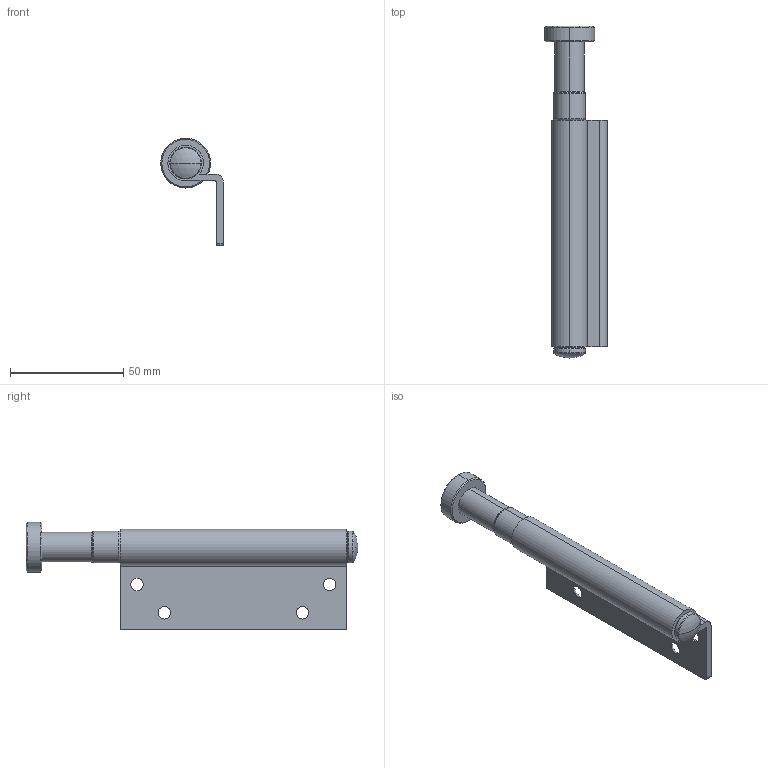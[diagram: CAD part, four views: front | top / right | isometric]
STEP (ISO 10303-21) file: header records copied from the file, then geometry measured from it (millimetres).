
FILE_DESCRIPTION (( 'STEP AP214' ), '1' );
FILE_NAME ('F3 Straight guide - Right 05Jul2024.STEP', '2024-07-05T00:16:43', ( '' ), ( '' ), 'SwSTEP 2.0', 'SolidWorks 2023', '' );
FILE_SCHEMA (( 'AUTOMOTIVE_DESIGN' ));
Length unit declared in the file: millimetre
Products named in the file (3): Straight guide body; Offset Flap; F3 Straight guide - Right 05Jul2024
Assembly tree (2 placements, depth 2):
  F3 Straight guide - Right 05Jul2024
    Straight guide body
    Offset Flap
Bounding box: 27.6 x 146.5 x 47.5 mm (x, y, z)
Volume: 38599.4 mm3; surface area: 22199.2 mm2
Topology: 2 solids, 2 shells, 65 faces, 147 edges, 89 vertices
Faces by surface type: cylinder 26, cone 14, torus 12, plane 11, sphere 2
Entity records: 1945 total; most frequent: DIRECTION 379, CARTESIAN_POINT 306, ORIENTED_EDGE 294, AXIS2_PLACEMENT_3D 162, EDGE_CURVE 147, CIRCLE 92, VERTEX_POINT 89, EDGE_LOOP 78
